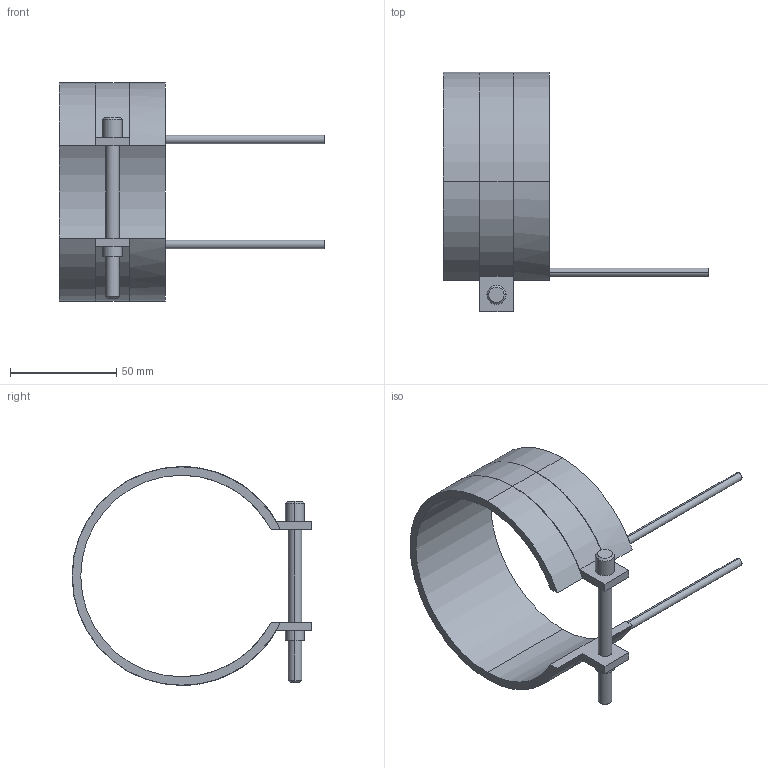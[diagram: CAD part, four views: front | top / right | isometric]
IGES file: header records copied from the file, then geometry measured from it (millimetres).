
Start section: START RECORD GO HERE.
Global section: file name: 14095050.igs; native system: DASSAULT SYSTEMES CATIA V5 R20 - www.3ds.com; preprocessor: CATIA Version 5 Release 20 ; author: Utente; organization: NB04-ASUS; date: 20210406.180314; units: millimetre
Bounding box: 125 x 113.1 x 103.2 mm (x, y, z)
Surface area: 33938.8 mm2 (no closed solid volume)
Topology: 0 solids, 0 shells, 45 faces, 232 edges, 232 vertices
Faces by surface type: revolution 28, plane 17
